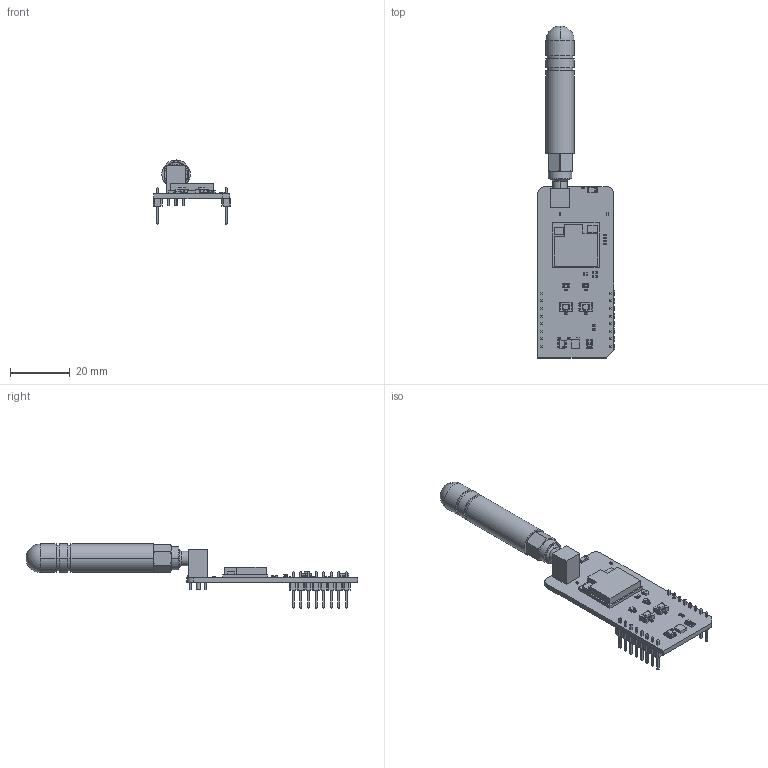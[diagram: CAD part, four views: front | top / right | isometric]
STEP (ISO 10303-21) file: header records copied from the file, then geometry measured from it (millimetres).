
FILE_DESCRIPTION(('Open CASCADE Model'),'2;1');
FILE_NAME('Open CASCADE Shape Model','2025-01-22T09:23:35',('Author'),( 'Open CASCADE'),'Open CASCADE STEP processor 6.8','Open CASCADE 6.8' ,'Unknown');
FILE_SCHEMA(('AUTOMOTIVE_DESIGN { 1 0 10303 214 1 1 1 1 }'));
Length unit declared in the file: millimetre
Products named in the file (64): PCB; Board; MBD1; Header_1x8; Free-Models; 1240637040; User_Library-PinHeaderX5-1_PinHeaderX5_Body_1; User_Library-PinHeaderX5-1_PinHeaderX5_Pins_1; R3; User_Library-R_0402; R1; User_Library-R_0805; LD3; led_0805_green; C1; User_Library-SMD_CAPACITOR0402; R4; U1; 771849912; Extruded; U2; User_Library-SOT23-6-2; AN1; 771508272; C2; C3; C4; User_Library-SMD_CAPACITOR0603; C5; C8; CN1; User_Library-sma_ra_pcb_mount_molex; User_Library-Antenna_AP22A; LED1; CHIPLED-0805-RED; LED2; led_0805_yellow; R2; R5; R6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
Assembly tree (84 placements, depth 7):
  PCB
    Board
    MBD1
      Header_1x8  x2
        PCB
          Free-Models
            1240637040  x2
              User_Library-PinHeaderX5-1_PinHeaderX5_Body_1
              User_Library-PinHeaderX5-1_PinHeaderX5_Pins_1
    R3
      User_Library-R_0402
    R1
      User_Library-R_0805
    LD3
      led_0805_green
    C1
      User_Library-SMD_CAPACITOR0402
    R4
      User_Library-R_0402
    U1
      771849912
        Extruded
    U2
      User_Library-SOT23-6-2
    AN1
      771508272
    C2
      User_Library-SMD_CAPACITOR0402
    C3
      User_Library-SMD_CAPACITOR0402
    C4
      User_Library-SMD_CAPACITOR0603
    C5
      User_Library-SMD_CAPACITOR0603
    C8
      User_Library-SMD_CAPACITOR0402
    CN1
      User_Library-sma_ra_pcb_mount_molex
      User_Library-Antenna_AP22A
    LED1
      CHIPLED-0805-RED
    LED2
      led_0805_yellow
    R2
      User_Library-R_0402
    R5
      User_Library-R_0402
    R6
      User_Library-R_0402
    R7
      User_Library-R_0402
    R8
      User_Library-R_0402
    R9
      User_Library-R_0402
    R10
      User_Library-R_0402
    R11
      User_Library-R_0402
    R12
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Bounding box: 25.78 x 110.72 x 21.36 mm (x, y, z)
Volume: 7406 mm3; surface area: 8408.5 mm2
Topology: 104 solids, 104 shells, 2806 faces, 7029 edges, 4496 vertices
Faces by surface type: plane 2014, bspline 430, cylinder 262, sphere 72, cone 18, torus 10
Entity records: 39566 total; most frequent: CARTESIAN_POINT 10039, ORIENTED_EDGE 4768, DIRECTION 4541, EDGE_CURVE 2384, LINE 1813, VECTOR 1813, VERTEX_POINT 1518, AXIS2_PLACEMENT_3D 1364
